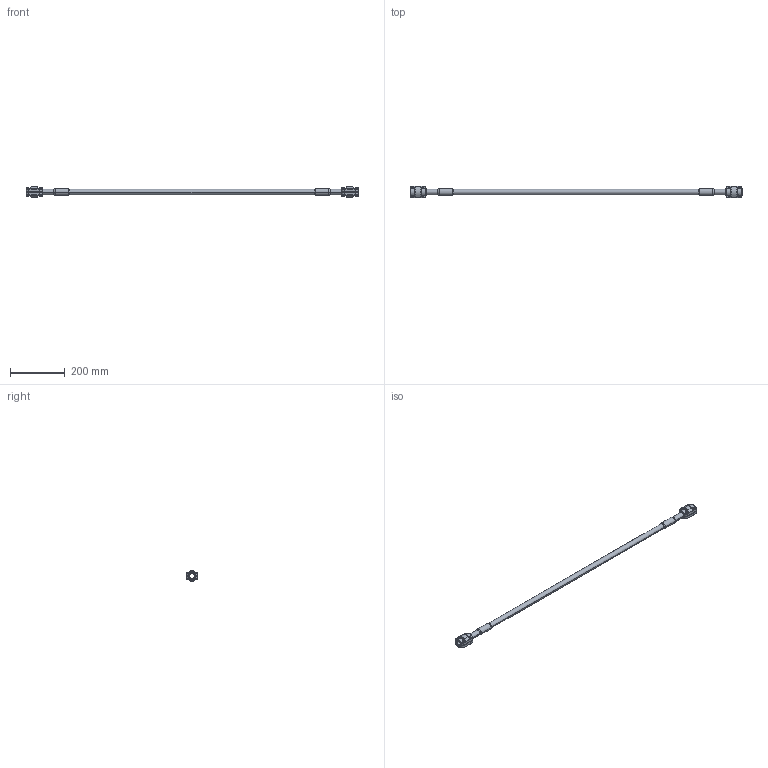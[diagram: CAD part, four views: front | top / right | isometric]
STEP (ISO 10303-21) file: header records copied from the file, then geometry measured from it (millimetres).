
FILE_DESCRIPTION((''),'2;1');
FILE_NAME('2015105599_ASM','2017-05-12T',('Administrator'),(''),'PRO/ENGINEER BY PARAMETRIC TECHNOLOGY CORPORATION, 2009360','PRO/ENGINEER BY PARAMETRIC TECHNOLOGY CORPORATION, 2009360','');
FILE_SCHEMA(('AUTOMOTIVE_DESIGN_CC2 { 1 2 10303 214 -1 1 5 2 }'));
Length unit declared in the file: millimetre
Products named in the file (5): 2015105500; 201510020000_38; 201510020001_10; 2015100200_ASM; 2015105599_ASM
Assembly tree (5 placements, depth 3):
  2015105599_ASM
    2015105500
    2015100200_ASM  x2
      201510020000_38
      201510020001_10
Bounding box: 1212 x 41 x 38.8 mm (x, y, z)
Volume: 166035.8 mm3; surface area: 174756.2 mm2
Topology: 5 solids, 17 shells, 754 faces, 1764 edges, 1044 vertices
Faces by surface type: bspline 272, cylinder 236, torus 128, plane 78, cone 24, sphere 16
Entity records: 18763 total; most frequent: CARTESIAN_POINT 8090, ORIENTED_EDGE 1808, DIRECTION 1410, PRESENTATION_STYLE_ASSIGNMENT 907, STYLED_ITEM 907, CURVE_STYLE 904, EDGE_CURVE 904, AXIS2_PLACEMENT_3D 608
